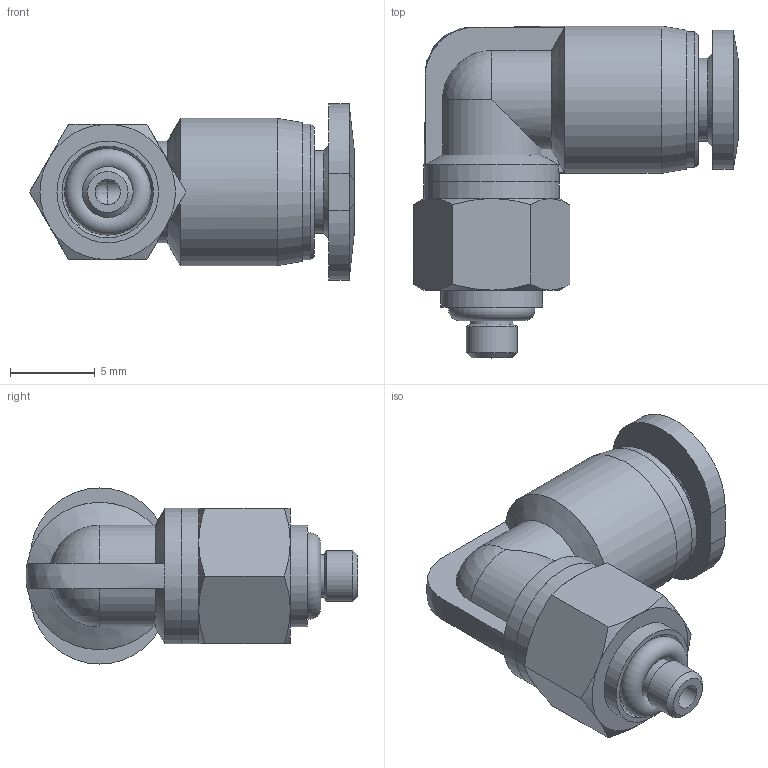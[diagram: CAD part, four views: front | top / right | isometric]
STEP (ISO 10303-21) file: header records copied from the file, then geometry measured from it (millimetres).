
FILE_DESCRIPTION((''),'2;1');
FILE_NAME('D:\INVENTOR\[New Inventor]\CDC Products 3D Ass''y\Compact One-Touch Fittings\Metric\PL-C\PL04-M3C.stp','2010-10-01T17:32:48',('Microsoft'),(''),'Autodesk Inventor 2008','Autodesk Inventor 2008','');
FILE_SCHEMA(('AUTOMOTIVE_DESIGN { 1 0 10303 214 1 1 1 1 }'));
Length unit declared in the file: millimetre
Products named in the file (1): PL04-M3C
Bounding box: 19.19 x 19.6 x 10.4 mm (x, y, z)
Volume: 1097.6 mm3; surface area: 1263.8 mm2
Topology: 2 solids, 2 shells, 76 faces, 171 edges, 101 vertices
Faces by surface type: plane 24, cone 22, cylinder 19, bspline 5, torus 3, sphere 3
Full cylindrical faces by diameter (mm): 1.5 x2, 2.5 x2, 3 x1, 4.2 x1, 4.9 x1, 6 x1, 6.2 x1, 8 x3, 8.7 x1
Entity records: 2200 total; most frequent: CARTESIAN_POINT 683, DIRECTION 320, ORIENTED_EDGE 280, AXIS2_PLACEMENT_3D 147, EDGE_CURVE 140, EDGE_LOOP 110, VERTEX_POINT 96, FACE_OUTER_BOUND 76
